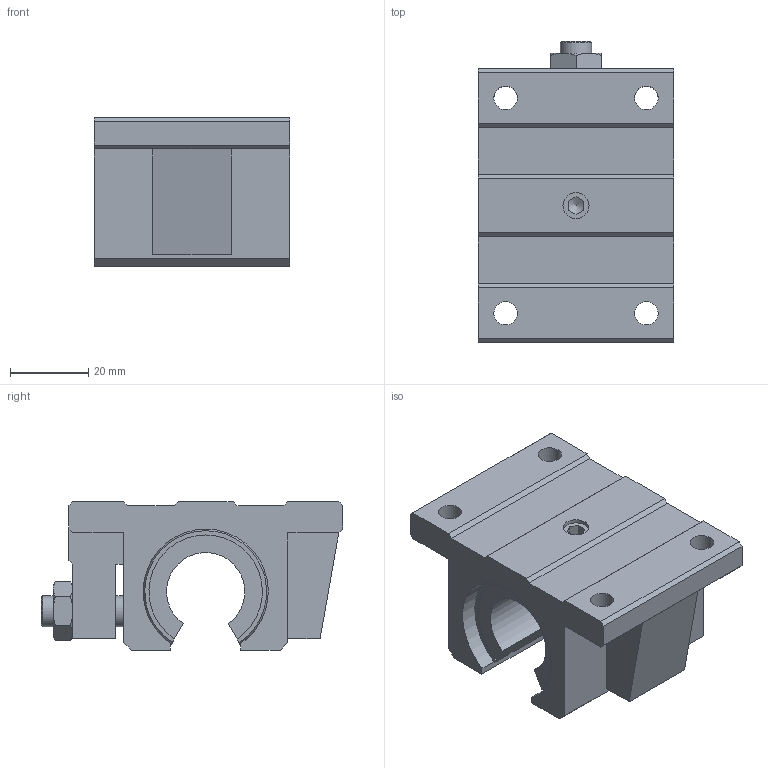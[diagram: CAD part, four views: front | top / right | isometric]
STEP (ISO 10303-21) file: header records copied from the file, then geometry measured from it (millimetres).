
FILE_DESCRIPTION((''),'2;1');
FILE_NAME('D:\製品 (図面)\カタログ用3D\GT20H.stp','2010-06-07T16:11:03',('Tsuchiya'),(''),'Autodesk Inventor 10','Autodesk Inventor 10','');
FILE_SCHEMA(('AUTOMOTIVE_DESIGN { 1 0 10303 214 1 1 1 1 }'));
Length unit declared in the file: millimetre
Products named in the file (1): GT20H
Bounding box: 50 x 77 x 38 mm (x, y, z)
Volume: 77758 mm3; surface area: 19675.3 mm2
Topology: 1 solids, 1 shells, 111 faces, 306 edges, 196 vertices
Faces by surface type: plane 71, cylinder 19, cone 15, bspline 4, torus 2
Full cylindrical faces by diameter (mm): 6 x2, 8 x2
Entity records: 3450 total; most frequent: CARTESIAN_POINT 746, ORIENTED_EDGE 578, DIRECTION 524, EDGE_CURVE 289, VECTOR 190, LINE 190, VERTEX_POINT 189, AXIS2_PLACEMENT_3D 167
